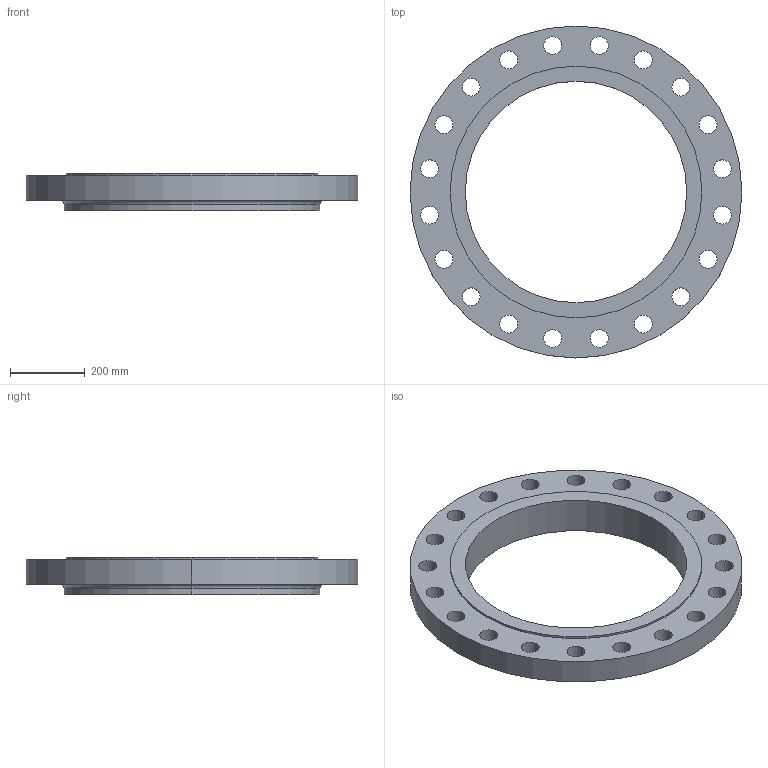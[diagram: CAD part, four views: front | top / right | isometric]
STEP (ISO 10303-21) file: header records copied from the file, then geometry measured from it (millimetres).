
FILE_DESCRIPTION (( 'STEP AP214' ), '1' );
FILE_NAME ('PN40 DN600 Type 13 - Type E Face.STEP', '2018-12-28T22:58:09', ( '' ), ( '' ), 'SwSTEP 2.0', 'SolidWorks 2019', '' );
FILE_SCHEMA (( 'AUTOMOTIVE_DESIGN' ));
Length unit declared in the file: millimetre
Products named in the file (1): PN40 DN600 Type 13 - Type E Face
Bounding box: 890 x 890 x 100 mm (x, y, z)
Volume: 23682579.4 mm3; surface area: 1252455.9 mm2
Topology: 1 solids, 1 shells, 54 faces, 148 edges, 98 vertices
Faces by surface type: cylinder 48, plane 4, torus 2
Entity records: 1894 total; most frequent: DIRECTION 358, CARTESIAN_POINT 301, ORIENTED_EDGE 296, AXIS2_PLACEMENT_3D 155, EDGE_CURVE 148, CIRCLE 100, EDGE_LOOP 98, VERTEX_POINT 98
